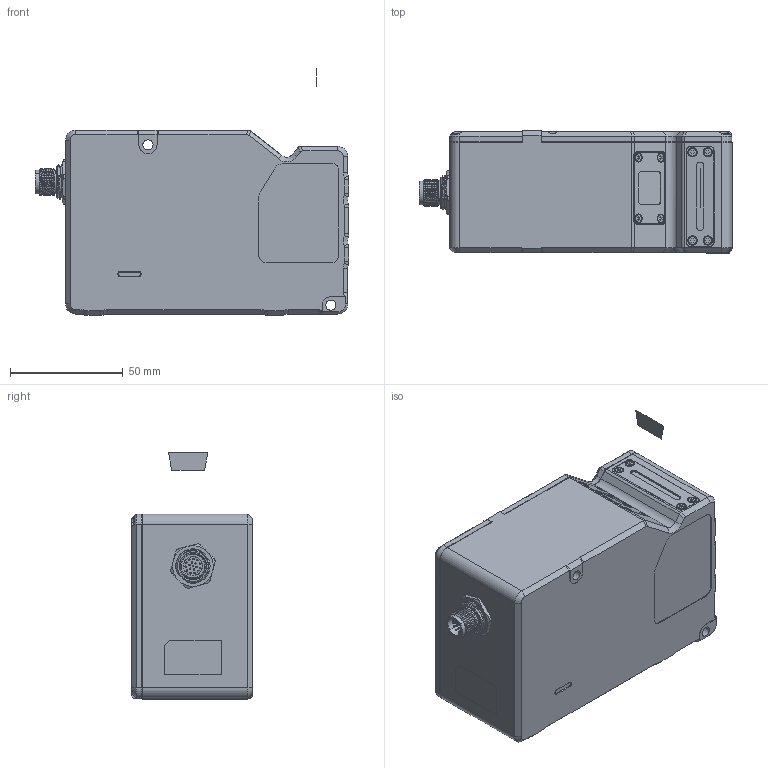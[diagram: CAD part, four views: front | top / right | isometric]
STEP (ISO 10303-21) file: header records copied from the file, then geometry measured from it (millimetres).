
FILE_DESCRIPTION((''),'2;1');
FILE_NAME('MV-DP3023-01P','2025-07-22T14:15:02',('liudeting'),(''),'CREO PARAMETRIC BY PTC INC, 2020044','CREO PARAMETRIC BY PTC INC, 2020044','');
FILE_SCHEMA(('CONFIG_CONTROL_DESIGN'));
Length unit declared in the file: millimetre
Products named in the file (1): MV-DP3023-01P
Bounding box: 139 x 54 x 109.2 mm (x, y, z)
Surface area: 45811.9 mm2 (no closed solid volume)
Topology: 0 solids, 35 shells, 607 faces, 1851 edges, 1267 vertices
Faces by surface type: plane 240, cylinder 181, cone 147, torus 26, bspline 13
Entity records: 28774 total; most frequent: CARTESIAN_POINT 12357, DIRECTION 3437, ORIENTED_EDGE 3262, EDGE_CURVE 1825, AXIS2_PLACEMENT_3D 1268, VERTEX_POINT 1267, VECTOR 901, LINE 901
